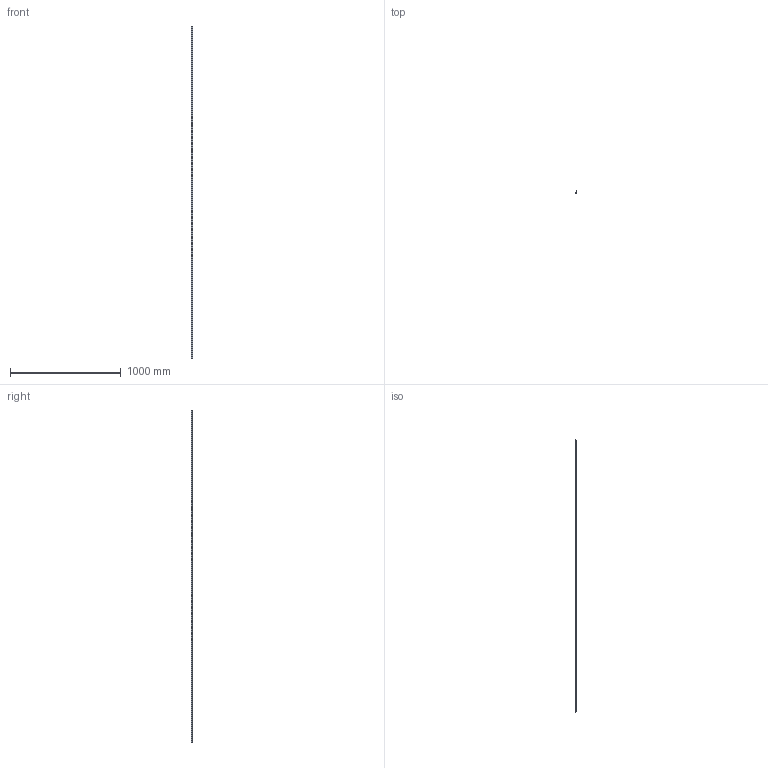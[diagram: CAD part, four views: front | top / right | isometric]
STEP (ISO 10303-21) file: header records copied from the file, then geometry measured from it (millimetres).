
FILE_DESCRIPTION(/* description */ ('GTV-132 LED profile'),/* implementation_level */ '2;1');
FILE_NAME(/* name */ 'D:\$Workspace\Designs\Różne\Brły 3D Glaxów_robocze\stp\PA-GLAXNKKT3M-AL.stp',/* time_stamp */ '2017-08-23T14:57:25+02:00',/* author */ ('PiotrMz'),/* organization */ (''),/* preprocessor_version */ 'ST-DEVELOPER v16.1',/* originating_system */ 'Autodesk Inventor 2016',/* authorisation */ '');
FILE_SCHEMA (('AUTOMOTIVE_DESIGN { 1 0 10303 214 3 1 1 }'));
Length unit declared in the file: millimetre
Products named in the file (1): profil kątowy new_uproszczony
Bounding box: 15.76 x 15.74 x 3000 mm (x, y, z)
Volume: 191339.9 mm3; surface area: 235505.6 mm2
Topology: 1 solids, 1 shells, 37 faces, 105 edges, 70 vertices
Faces by surface type: plane 28, cylinder 9
Entity records: 1221 total; most frequent: CARTESIAN_POINT 213, ORIENTED_EDGE 210, DIRECTION 199, EDGE_CURVE 105, LINE 87, VECTOR 87, VERTEX_POINT 70, AXIS2_PLACEMENT_3D 56
